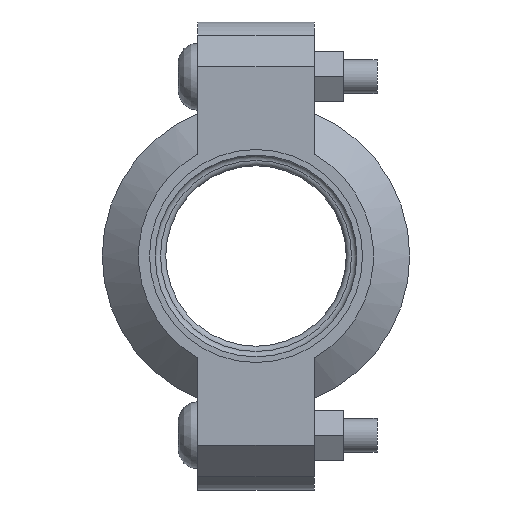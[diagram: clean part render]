
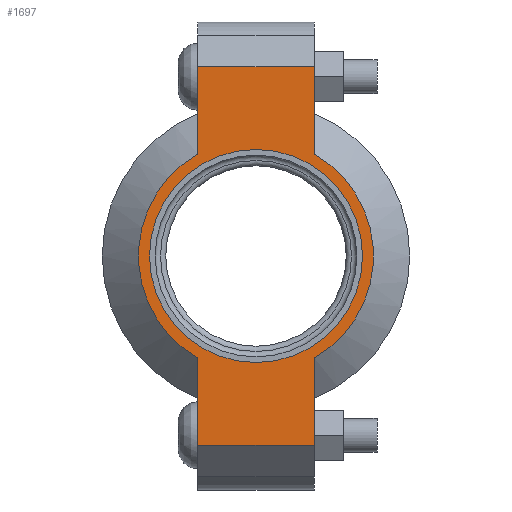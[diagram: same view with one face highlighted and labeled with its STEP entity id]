
A CAD part, left-side view. The second image highlights one B-rep face of the part: STEP entity #1697.
In plain terms, the highlighted planar face has unit normal (-1, 0, 0) as drawn and (0, 0, 1) by its records, which use the part's own axes.
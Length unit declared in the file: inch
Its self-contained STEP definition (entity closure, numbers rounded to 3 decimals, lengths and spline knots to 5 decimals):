
#103=LINE('',#2981,#194);
#111=LINE('',#3017,#202);
#118=LINE('',#3038,#209);
#127=LINE('',#3070,#218);
#128=LINE('',#3074,#219);
#129=LINE('',#3076,#220);
#194=VECTOR('',#2424,0.3937);
#202=VECTOR('',#2440,0.3937);
#209=VECTOR('',#2459,0.3937);
#218=VECTOR('',#2484,0.3937);
#219=VECTOR('',#2489,0.3937);
#220=VECTOR('',#2490,0.3937);
#264=FACE_BOUND('',#478,.T.);
#302=PLANE('',#1981);
#378=FACE_OUTER_BOUND('',#477,.T.);
#477=EDGE_LOOP('',(#1443,#1444,#1445,#1446,#1447,#1448,#1449,#1450));
#478=EDGE_LOOP('',(#1451));
#626=CIRCLE('',#1982,1.31);
#627=CIRCLE('',#1983,1.31);
#628=CIRCLE('',#1984,1.1875);
#766=VERTEX_POINT('',#2978);
#767=VERTEX_POINT('',#2980);
#778=VERTEX_POINT('',#3012);
#779=VERTEX_POINT('',#3016);
#786=VERTEX_POINT('',#3035);
#787=VERTEX_POINT('',#3037);
#797=VERTEX_POINT('',#3073);
#798=VERTEX_POINT('',#3075);
#799=VERTEX_POINT('',#3078);
#981=EDGE_CURVE('',#767,#766,#103,.T.);
#995=EDGE_CURVE('',#779,#778,#111,.T.);
#1005=EDGE_CURVE('',#787,#786,#118,.T.);
#1020=EDGE_CURVE('',#779,#766,#127,.T.);
#1021=EDGE_CURVE('',#778,#787,#626,.T.);
#1022=EDGE_CURVE('',#797,#786,#128,.T.);
#1023=EDGE_CURVE('',#797,#798,#129,.T.);
#1024=EDGE_CURVE('',#798,#767,#627,.T.);
#1025=EDGE_CURVE('',#799,#799,#628,.T.);
#1443=ORIENTED_EDGE('',*,*,#1020,.F.);
#1444=ORIENTED_EDGE('',*,*,#995,.T.);
#1445=ORIENTED_EDGE('',*,*,#1021,.T.);
#1446=ORIENTED_EDGE('',*,*,#1005,.T.);
#1447=ORIENTED_EDGE('',*,*,#1022,.F.);
#1448=ORIENTED_EDGE('',*,*,#1023,.T.);
#1449=ORIENTED_EDGE('',*,*,#1024,.T.);
#1450=ORIENTED_EDGE('',*,*,#981,.T.);
#1451=ORIENTED_EDGE('',*,*,#1025,.T.);
#1697=ADVANCED_FACE('',(#378,#264),#302,.T.);
#1981=AXIS2_PLACEMENT_3D('',#3071,#2485,#2486);
#1982=AXIS2_PLACEMENT_3D('',#3072,#2487,#2488);
#1983=AXIS2_PLACEMENT_3D('',#3077,#2491,#2492);
#1984=AXIS2_PLACEMENT_3D('',#3079,#2493,#2494);
#2424=DIRECTION('',(1.,0.,0.));
#2440=DIRECTION('',(-1.,0.,0.));
#2459=DIRECTION('',(-1.,0.,0.));
#2484=DIRECTION('',(0.,-1.,0.));
#2485=DIRECTION('center_axis',(0.,0.,1.));
#2486=DIRECTION('ref_axis',(-1.,0.,0.));
#2487=DIRECTION('center_axis',(0.,0.,1.));
#2488=DIRECTION('ref_axis',(1.,0.,0.));
#2489=DIRECTION('',(0.,1.,0.));
#2490=DIRECTION('',(1.,0.,0.));
#2491=DIRECTION('center_axis',(0.,0.,1.));
#2492=DIRECTION('ref_axis',(1.,0.,0.));
#2493=DIRECTION('center_axis',(0.,0.,-1.));
#2494=DIRECTION('ref_axis',(1.,0.,0.));
#2978=CARTESIAN_POINT('',(2.11,-0.65,0.94));
#2980=CARTESIAN_POINT('',(1.13737,-0.65,0.94));
#2981=CARTESIAN_POINT('',(2.61,-0.65,0.94));
#3012=CARTESIAN_POINT('',(1.13737,0.65,0.94));
#3016=CARTESIAN_POINT('',(2.11,0.65,0.94));
#3017=CARTESIAN_POINT('',(-2.61,0.65,0.94));
#3035=CARTESIAN_POINT('',(-2.11,0.65,0.94));
#3037=CARTESIAN_POINT('',(-1.13737,0.65,0.94));
#3038=CARTESIAN_POINT('',(-2.61,0.65,0.94));
#3070=CARTESIAN_POINT('',(2.11,-0.325,0.94));
#3071=CARTESIAN_POINT('Origin',(0.,0.,
0.94));
#3072=CARTESIAN_POINT('Origin',(0.,0.,0.94));
#3073=CARTESIAN_POINT('',(-2.11,-0.65,0.94));
#3074=CARTESIAN_POINT('',(-2.11,0.325,0.94));
#3075=CARTESIAN_POINT('',(-1.13737,-0.65,0.94));
#3076=CARTESIAN_POINT('',(2.61,-0.65,0.94));
#3077=CARTESIAN_POINT('Origin',(0.,0.,0.94));
#3078=CARTESIAN_POINT('',(-1.1875,0.,0.94));
#3079=CARTESIAN_POINT('Origin',(0.,0.,0.94));
